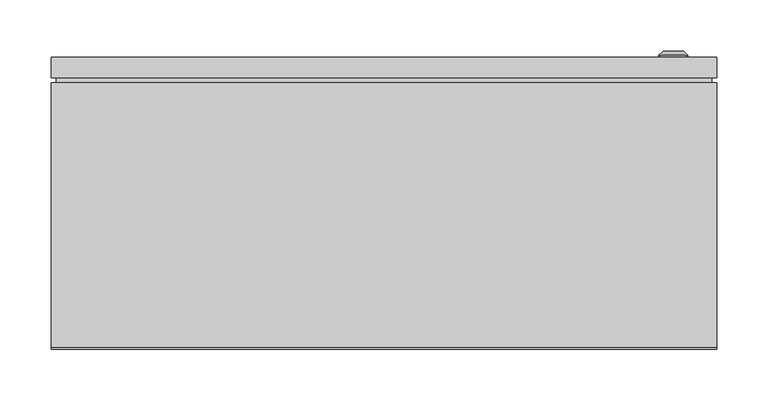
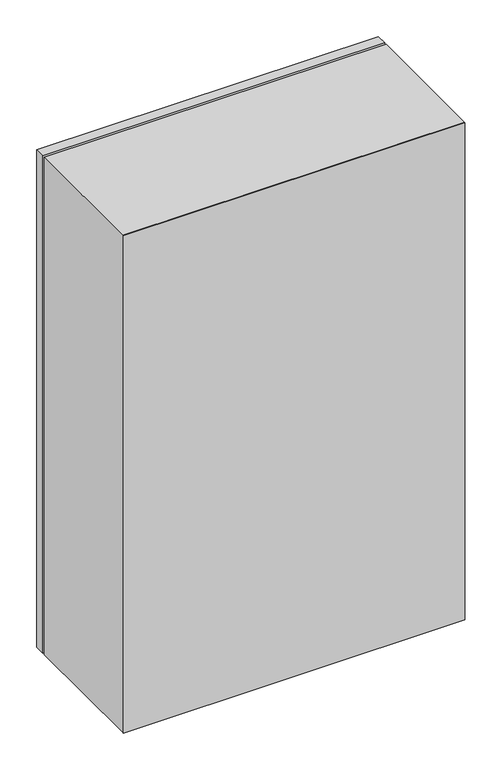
"""IFC4 building model written with IfcOpenShell, lengths in millimetres: proxy geometry, ЩМП_IP65 : ЩМП-5-0_1000х650х285."""

from ifc_helpers import new_model, si_unit, frame, origin, origin_with_axes, place, context, project, spatial, polyline, circle_curve, outline, extrude, source, transform, mapped, element, save
from ifc_brep_helpers import plane_surface, cylinder_surface, revolved_surface, advanced_brep


def electrical_equipment_0ed47aab(model_context):
    return source(origin(), model_context, "Body", "SolidModel", [
        extrude(outline(polyline([(320.0, 260.0), (-320.0, 260.0), (-320.0, 265.0), (320.0, 265.0), (320.0, 260.0)])), frame((0.0, 0.0, 5.0), z_axis=(0.0, 0.0, 1.0), x_axis=(1.0, 0.0, 0.0)), (0.0, 0.0, 1.0), 990.0),
        extrude(outline(polyline([(325.0, 265.0), (-325.0, 265.0), (-325.0, 285.0), (325.0, 285.0), (325.0, 265.0)])), origin_with_axes(), (0.0, 0.0, 1.0), 1000.0),
        advanced_brep(
        [(268.169873, 285.0, 500.0), (296.830127, 285.0, 500.0), (282.5, 285.0, 500.0), (268.169873, 287.366592, 500.0), (296.830127, 287.366592, 500.0), (272.5, 291.0, 500.0), (292.5, 291.0, 500.0), (280.6080471, 291.0, 500.0), (284.3919529, 291.0, 500.0), (280.6080471, 289.9822294, 500.0), (284.3919529, 289.9822294, 500.0), (282.5, 289.9822294, 500.0)],
        [
            (0, 1, circle_curve(frame((282.5, 285.0, 500.0), z_axis=(0.0, -1.0, 0.0), x_axis=(1.0, 0.0, 0.0)), 14.330127)),
            (1, 2),
            (2, 0),
            (1, 0, circle_curve(frame((282.5, 285.0, 500.0), z_axis=(0.0, -1.0, 0.0), x_axis=(1.0, 0.0, 0.0)), 14.330127)),
            (3, 4, circle_curve(frame((282.5, 287.366592, 500.0), z_axis=(0.0, -1.0, 0.0), x_axis=(1.0, 0.0, 0.0)), 14.330127)),
            (4, 1),
            (0, 3),
            (4, 3, circle_curve(frame((282.5, 287.366592, 500.0), z_axis=(0.0, -1.0, 0.0), x_axis=(1.0, 0.0, 0.0)), 14.330127)),
            (5, 6, circle_curve(frame((282.5, 291.0, 500.0), z_axis=(0.0, -1.0, 0.0), x_axis=(1.0, 0.0, 0.0)), 10.0)),
            (6, 4),
            (3, 5),
            (6, 5, circle_curve(frame((282.5, 291.0, 500.0), z_axis=(0.0, -1.0, 0.0), x_axis=(1.0, 0.0, 0.0)), 10.0)),
            (7, 8, circle_curve(frame((282.5, 291.0, 500.0), z_axis=(0.0, -1.0, 0.0), x_axis=(1.0, 0.0, 0.0)), 1.8919529)),
            (8, 6),
            (5, 7),
            (8, 7, circle_curve(frame((282.5, 291.0, 500.0), z_axis=(0.0, -1.0, 0.0), x_axis=(1.0, 0.0, 0.0)), 1.8919529)),
            (9, 10, circle_curve(frame((282.5, 289.9822294, 500.0), z_axis=(0.0, -1.0, 0.0), x_axis=(1.0, 0.0, 0.0)), 1.8919529)),
            (10, 8),
            (7, 9),
            (10, 9, circle_curve(frame((282.5, 289.9822294, 500.0), z_axis=(0.0, -1.0, 0.0), x_axis=(1.0, 0.0, 0.0)), 1.8919529)),
            (11, 10),
            (9, 11),
        ],
        [
            plane_surface(frame((282.5, 285.0, 500.0), z_axis=(0.0, -1.0, 0.0), x_axis=(1.0, 0.0, 0.0))),
            cylinder_surface(frame((282.5, 298.1348851, 500.0), z_axis=(0.0, 1.0, 0.0), x_axis=(1.0, 0.0, 0.0)), 14.330127),
            revolved_surface(polyline([(296.830127, 287.366592, 500.0), (292.5, 291.0, 500.0)]), (282.5, 298.1348851, 500.0), (0.0, 1.0, 0.0)),
            plane_surface(frame((282.5, 291.0, 500.0), z_axis=(0.0, 1.0, 0.0), x_axis=(1.0, 0.0, 0.0))),
            revolved_surface(polyline([(284.3919529, 291.0, 500.0), (284.3919529, 289.9822294, 500.0)]), (282.5, 298.1348851, 500.0), (0.0, 1.0, 0.0)),
            plane_surface(frame((282.5, 289.9822294, 500.0), z_axis=(0.0, 1.0, 0.0), x_axis=(1.0, 0.0, 0.0))),
        ],
        [
            (0, [[1, 2, 3]]),
            (0, [[4, -3, -2]]),
            (1, [[5, 6, -1, 7]]),
            (1, [[8, -7, -4, -6]]),
            (2, [[9, 10, -5, 11]]),
            (2, [[12, -11, -8, -10]]),
            (3, [[13, 14, -9, 15]]),
            (3, [[16, -15, -12, -14]]),
            (4, [[17, 18, -13, 19]]),
            (4, [[20, -19, -16, -18]]),
            (5, [[21, -17, 22]]),
            (5, [[-22, -20, -21]]),
        ],
    ),
        extrude(outline(polyline([(1000.0, -325.0033905), (0.0, -325.0033905), (0.0, 324.9966095), (1000.0, 324.9966095), (1000.0, -325.0033905)]), holes=[polyline([(965.0, -292.5033905), (965.0, 292.4966095), (35.0, 292.4966095), (35.0, -292.5033905), (965.0, -292.5033905)])]), frame((0.0, 2.0, 0.0), z_axis=(0.0, 1.0, 0.0), x_axis=(0.0, 0.0, 1.0)), (0.0, 0.0, 1.0), 258.0),
        extrude(outline(polyline([(325.0, 0.0), (-325.0, 0.0), (-325.0, 2.0), (325.0, 2.0), (325.0, 0.0)])), origin_with_axes(), (0.0, 0.0, 1.0), 1000.0),
    ])


if __name__ == "__main__":
    model = new_model("IFC4")
    model_context = context("Model", 3, world=origin())
    ifc_project = project(units=[si_unit("LENGTHUNIT", "METRE", prefix="MILLI")], contexts=[model_context])
    site = spatial("IfcSite", under=ifc_project)
    building = spatial("IfcBuilding", under=site)
    placement = place(None, origin())
    electrical_equipment_shape = electrical_equipment_0ed47aab(model_context)
    element("IfcBuildingElementProxy", 1, Name="ЩМП_IP65 : ЩМП-5-0_1000х650х285", ObjectType="ЩМП_IP65 : ЩМП-5-0_1000х650х285", at=placement, inside=building, context=model_context, shape_type="MappedRepresentation", body=[
        mapped(electrical_equipment_shape, transform((0.0, 0.0, 0.0), x_axis=(1.0, 0.0, 0.0), y_axis=(0.0, 1.0, 0.0), z_axis=(0.0, 0.0, 1.0))),
    ])
    save(model, "model.ifc")
